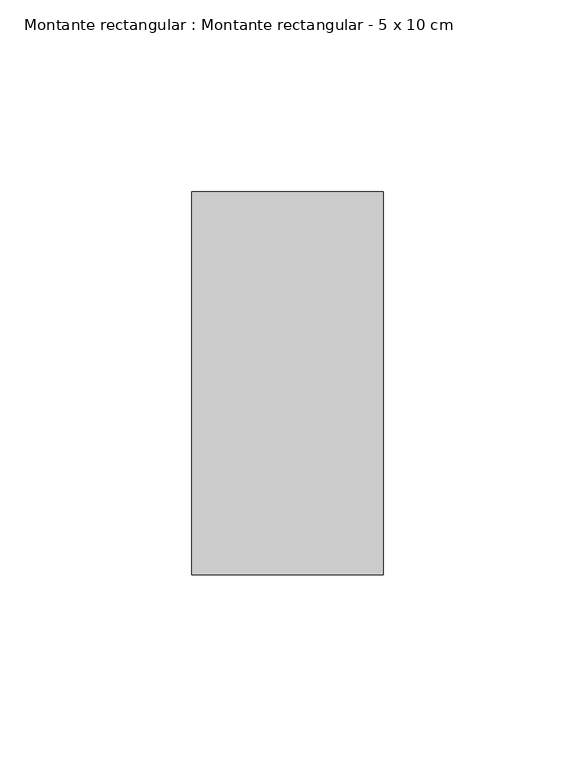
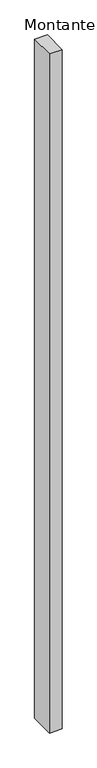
"""IFC4 building model written with IfcOpenShell, lengths in millimetres: member geometry, Montante rectangular : Montante rectangular - 5 x 10 cm."""

from ifc_helpers import new_model, si_unit, frame, origin, place, context, project, spatial, polyline, outline, extrude, source, transform, mapped, element, save


def montante_rectangular_montante_rectangular_5_x_10_cm_7b851dd1(model_context):
    return source(origin(), model_context, "Body", "SweptSolid", [
        extrude(outline(polyline([(25.0, 50.0), (25.0, -50.0), (-25.0, -50.0), (-25.0, 50.0), (25.0, 50.0)])), frame((0.0, 0.0, -2820.0), z_axis=(0.0, 0.0, 1.0), x_axis=(1.0, 0.0, 0.0)), (0.0, 0.0, 1.0), 2820.0),
    ])


if __name__ == "__main__":
    model = new_model("IFC4")
    model_context = context("Model", 3, world=origin())
    ifc_project = project(units=[si_unit("LENGTHUNIT", "METRE", prefix="MILLI")], contexts=[model_context])
    site = spatial("IfcSite", under=ifc_project)
    building = spatial("IfcBuilding", under=site)
    placement = place(None, origin())
    montante_rectangular_montante_rectangular_5_x_10_cm_shape = montante_rectangular_montante_rectangular_5_x_10_cm_7b851dd1(model_context)
    element("IfcMember", 1, ObjectType="Montante rectangular : Montante rectangular - 5 x 10 cm", at=placement, inside=building, context=model_context, shape_type="MappedRepresentation", body=[
        mapped(montante_rectangular_montante_rectangular_5_x_10_cm_shape, transform((0.0, 0.0, 0.0), x_axis=(1.0, 0.0, 0.0), y_axis=(0.0, 1.0, 0.0), z_axis=(0.0, 0.0, 1.0))),
    ])
    save(model, "model.ifc")
